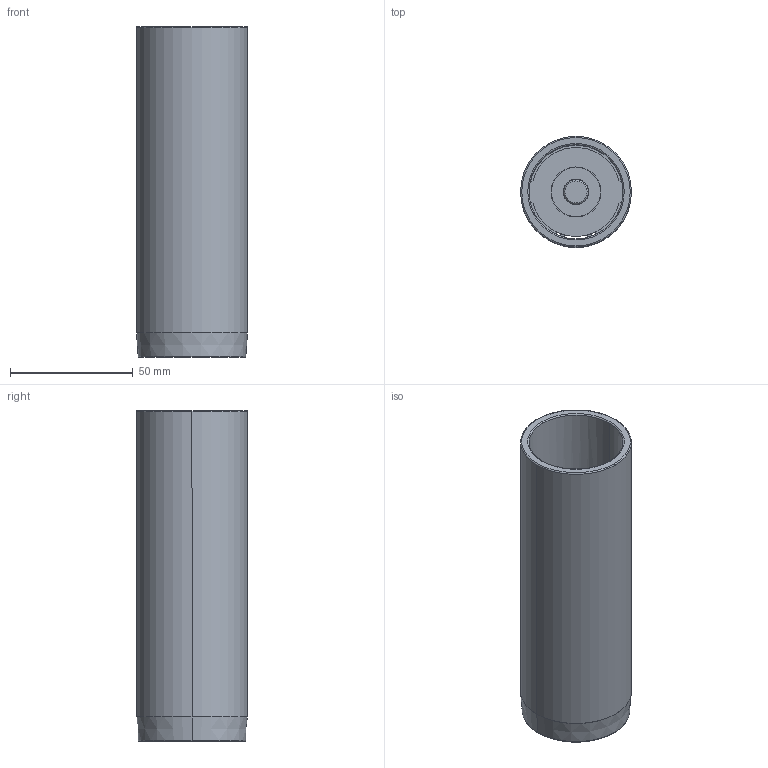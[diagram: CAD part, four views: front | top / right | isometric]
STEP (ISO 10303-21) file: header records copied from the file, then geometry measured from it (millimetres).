
FILE_DESCRIPTION((''),'2;1');
FILE_NAME('C12_038_135.stp','2009-01-28T11:30:43',(''),(''),'Mechanical Desktop 2009','Mechanical Desktop 2009',', , ');
FILE_SCHEMA(('CONFIG_CONTROL_DESIGN'));
Length unit declared in the file: millimetre
Products named in the file (2): Product; blmdl1
Assembly tree (1 placements, depth 2):
  Product
    blmdl1
Bounding box: 45.25 x 45.25 x 135 mm (x, y, z)
Volume: 65175.4 mm3; surface area: 42454.9 mm2
Topology: 5 solids, 5 shells, 79 faces, 200 edges, 134 vertices
Faces by surface type: cylinder 34, plane 29, torus 10, cone 6
Entity records: 2585 total; most frequent: DIRECTION 480, CARTESIAN_POINT 435, ORIENTED_EDGE 400, AXIS2_PLACEMENT_3D 203, EDGE_CURVE 200, VERTEX_POINT 134, CIRCLE 122, EDGE_LOOP 92
